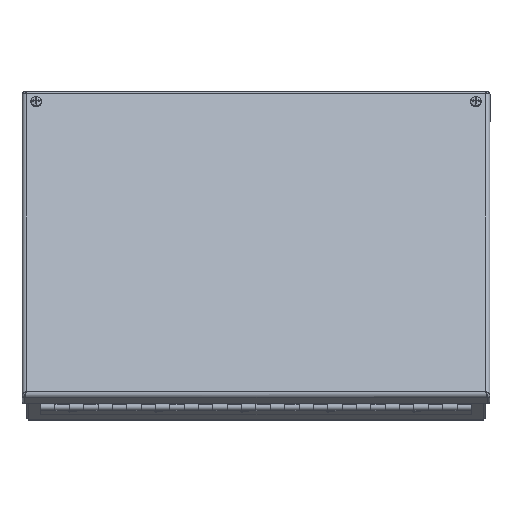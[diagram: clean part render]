
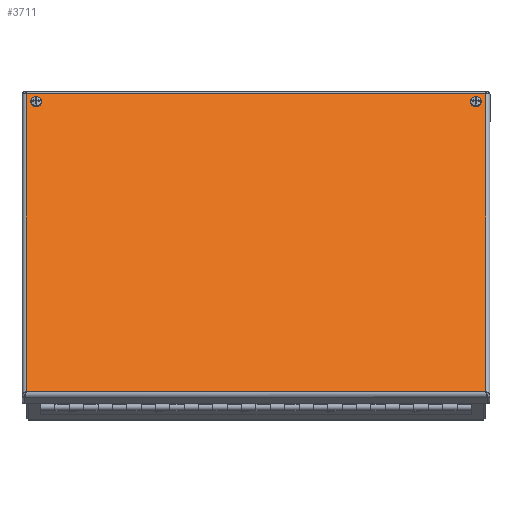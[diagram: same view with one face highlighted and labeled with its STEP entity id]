
A CAD part, top view. The second image highlights one B-rep face of the part: STEP entity #3711.
In plain terms, the highlighted planar face has unit normal (0, 0.5, 0.866) as drawn and (0, 0, 1) by its records, which use the part's own axes.
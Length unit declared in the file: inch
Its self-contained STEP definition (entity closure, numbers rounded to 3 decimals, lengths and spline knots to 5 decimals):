
#3711 = ADVANCED_FACE ( 'NONE', ( #42080, #42091, #42093 ), #17607, .T. ) ;
#14606 = CIRCLE ( 'NONE', #37254, 0.125 ) ;
#14609 = VECTOR ( 'NONE', #23898, 39.37008 ) ;
#14615 = CIRCLE ( 'NONE', #37252, 0.125 ) ;
#14616 = LINE ( 'NONE', #23902, #14618 ) ;
#14617 = CIRCLE ( 'NONE', #37259, 0.125 ) ;
#14618 = VECTOR ( 'NONE', #23903, 39.37008 ) ;
#14619 = LINE ( 'NONE', #23890, #14609 ) ;
#14624 = CIRCLE ( 'NONE', #37261, 0.125 ) ;
#14625 = LINE ( 'NONE', #23904, #14626 ) ;
#14626 = VECTOR ( 'NONE', #23905, 39.37008 ) ;
#14627 = LINE ( 'NONE', #23906, #14628 ) ;
#14628 = VECTOR ( 'NONE', #23907, 39.37008 ) ;
#17605 = DIRECTION ( 'NONE',  ( 1., 0., 0. ) ) ;
#17606 = DIRECTION ( 'NONE',  ( 0., 0., 1. ) ) ;
#17607 = PLANE ( 'NONE',  #32967 ) ;
#17608 = CARTESIAN_POINT ( 'NONE',  ( -8.1475, -6.1475, 0.072 ) ) ;
#19955 = CARTESIAN_POINT ( 'NONE',  ( 7.5305, 5.6555, 0.072 ) ) ;
#20004 = CARTESIAN_POINT ( 'NONE',  ( -7.9955, 5.9955, 0.072 ) ) ;
#20030 = CARTESIAN_POINT ( 'NONE',  ( 7.9955, -5.9955, 0.072 ) ) ;
#20038 = CARTESIAN_POINT ( 'NONE',  ( 7.7805, 5.6555, 0.072 ) ) ;
#20816 = CARTESIAN_POINT ( 'NONE',  ( -7.7805, 5.6555, 0.072 ) ) ;
#20897 = CARTESIAN_POINT ( 'NONE',  ( 7.9955, 5.9955, 0.072 ) ) ;
#20960 = CARTESIAN_POINT ( 'NONE',  ( -7.5305, 5.6555, 0.072 ) ) ;
#20970 = CARTESIAN_POINT ( 'NONE',  ( -7.9955, -5.9955, 0.072 ) ) ;
#23868 = CARTESIAN_POINT ( 'NONE',  ( 7.6555, 5.6555, 0.072 ) ) ;
#23870 = DIRECTION ( 'NONE',  ( 0., 0., 1. ) ) ;
#23871 = DIRECTION ( 'NONE',  ( 1., 0., 0. ) ) ;
#23886 = CARTESIAN_POINT ( 'NONE',  ( -7.6555, 5.6555, 0.072 ) ) ;
#23887 = DIRECTION ( 'NONE',  ( 0., 0., 1. ) ) ;
#23888 = DIRECTION ( 'NONE',  ( 1., 0., 0. ) ) ;
#23889 = CARTESIAN_POINT ( 'NONE',  ( -7.6555, 5.6555, 0.072 ) ) ;
#23890 = CARTESIAN_POINT ( 'NONE',  ( -7.9955, 6.05499, 0.072 ) ) ;
#23891 = DIRECTION ( 'NONE',  ( 0., 0., 1. ) ) ;
#23892 = DIRECTION ( 'NONE',  ( 1., 0., 0. ) ) ;
#23898 = DIRECTION ( 'NONE',  ( 0., -1., 0. ) ) ;
#23899 = CARTESIAN_POINT ( 'NONE',  ( 7.6555, 5.6555, 0.072 ) ) ;
#23900 = DIRECTION ( 'NONE',  ( 0., 0., 1. ) ) ;
#23901 = DIRECTION ( 'NONE',  ( 1., 0., 0. ) ) ;
#23902 = CARTESIAN_POINT ( 'NONE',  ( 8.05499, 5.9955, 0.072 ) ) ;
#23903 = DIRECTION ( 'NONE',  ( -1., 0., 0. ) ) ;
#23904 = CARTESIAN_POINT ( 'NONE',  ( 7.9955, -6.05499, 0.072 ) ) ;
#23905 = DIRECTION ( 'NONE',  ( 0., 1., 0. ) ) ;
#23906 = CARTESIAN_POINT ( 'NONE',  ( -8.05499, -5.9955, 0.072 ) ) ;
#23907 = DIRECTION ( 'NONE',  ( 1., 0., 0. ) ) ;
#26296 = EDGE_CURVE ( 'NONE', #43977, #44060, #14606, .T. ) ;
#26302 = EDGE_CURVE ( 'NONE', #44106, #44250, #14615, .T. ) ;
#26303 = EDGE_CURVE ( 'NONE', #44250, #44106, #14617, .T. ) ;
#26306 = EDGE_CURVE ( 'NONE', #44026, #44260, #14619, .T. ) ;
#26307 = EDGE_CURVE ( 'NONE', #44060, #43977, #14624, .T. ) ;
#26308 = EDGE_CURVE ( 'NONE', #44187, #44026, #14616, .T. ) ;
#26309 = EDGE_CURVE ( 'NONE', #44052, #44187, #14625, .T. ) ;
#26310 = EDGE_CURVE ( 'NONE', #44260, #44052, #14627, .T. ) ;
#26885 = ORIENTED_EDGE ( 'NONE', *, *, #26307, .F. ) ;
#26886 = ORIENTED_EDGE ( 'NONE', *, *, #26296, .F. ) ;
#26887 = ORIENTED_EDGE ( 'NONE', *, *, #26303, .F. ) ;
#26888 = ORIENTED_EDGE ( 'NONE', *, *, #26302, .F. ) ;
#26889 = ORIENTED_EDGE ( 'NONE', *, *, #26308, .T. ) ;
#26890 = ORIENTED_EDGE ( 'NONE', *, *, #26306, .T. ) ;
#26891 = ORIENTED_EDGE ( 'NONE', *, *, #26310, .T. ) ;
#26892 = ORIENTED_EDGE ( 'NONE', *, *, #26309, .T. ) ;
#32967 = AXIS2_PLACEMENT_3D ( 'NONE', #17608, #17606, #17605 ) ;
#37252 = AXIS2_PLACEMENT_3D ( 'NONE', #23886, #23887, #23888 ) ;
#37254 = AXIS2_PLACEMENT_3D ( 'NONE', #23868, #23870, #23871 ) ;
#37259 = AXIS2_PLACEMENT_3D ( 'NONE', #23889, #23891, #23892 ) ;
#37261 = AXIS2_PLACEMENT_3D ( 'NONE', #23899, #23900, #23901 ) ;
#39342 = EDGE_LOOP ( 'NONE', ( #26889, #26890, #26891, #26892 ) ) ;
#39344 = EDGE_LOOP ( 'NONE', ( #26887, #26888 ) ) ;
#39421 = EDGE_LOOP ( 'NONE', ( #26885, #26886 ) ) ;
#42080 = FACE_BOUND ( 'NONE', #39421, .T. ) ;
#42091 = FACE_BOUND ( 'NONE', #39344, .T. ) ;
#42093 = FACE_OUTER_BOUND ( 'NONE', #39342, .T. ) ;
#43977 = VERTEX_POINT ( 'NONE', #19955 ) ;
#44026 = VERTEX_POINT ( 'NONE', #20004 ) ;
#44052 = VERTEX_POINT ( 'NONE', #20030 ) ;
#44060 = VERTEX_POINT ( 'NONE', #20038 ) ;
#44106 = VERTEX_POINT ( 'NONE', #20816 ) ;
#44187 = VERTEX_POINT ( 'NONE', #20897 ) ;
#44250 = VERTEX_POINT ( 'NONE', #20960 ) ;
#44260 = VERTEX_POINT ( 'NONE', #20970 ) ;
